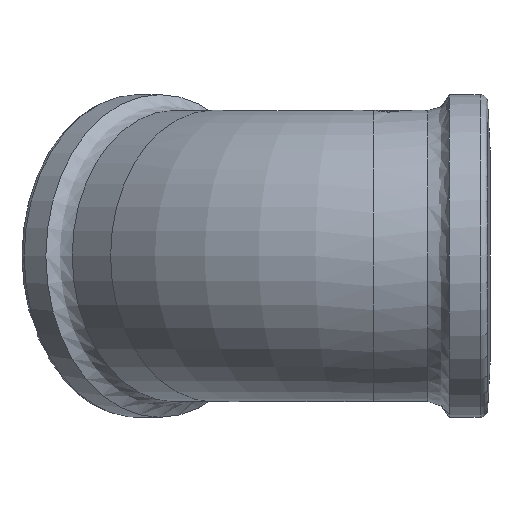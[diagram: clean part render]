
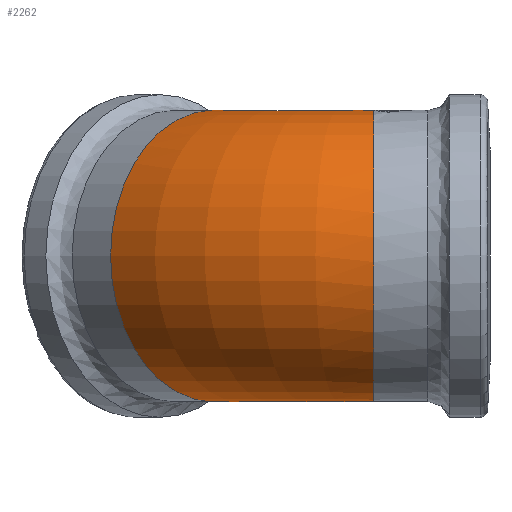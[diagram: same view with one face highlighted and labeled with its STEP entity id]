
A CAD part, left-side view. The second image highlights one B-rep face of the part: STEP entity #2262.
In plain terms, the highlighted toroidal (fillet/blend) face has major radius 30.15 mm and minor radius 19.4 mm.
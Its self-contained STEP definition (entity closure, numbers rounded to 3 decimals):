
#299=CARTESIAN_POINT('',(1.195,15.5,19.363));
#300=VERTEX_POINT('',#299);
#310=CARTESIAN_POINT('',(-0.176,17.023,19.399));
#311=VERTEX_POINT('',#310);
#312=CARTESIAN_POINT('',(-0.176,17.023,19.399));
#313=CARTESIAN_POINT('',(0.012,16.814,19.401));
#314=CARTESIAN_POINT('',(0.197,16.609,19.4));
#315=CARTESIAN_POINT('',(0.388,16.396,19.396));
#316=CARTESIAN_POINT('',(0.651,16.104,19.391));
#317=CARTESIAN_POINT('',(0.921,15.805,19.38));
#318=CARTESIAN_POINT('',(1.195,15.5,19.363));
#319=B_SPLINE_CURVE_WITH_KNOTS('',3,(#312,#313,#314,#315,#316,#317,#318),.UNSPECIFIED.,.F.,.U.,(4,3,4),(18.788,18.872,18.986),.UNSPECIFIED.);
#320=EDGE_CURVE('',#311,#300,#319,.T.);
#394=CARTESIAN_POINT('',(-1.547,15.5,19.338));
#395=VERTEX_POINT('',#394);
#396=CARTESIAN_POINT('',(-1.547,15.5,19.338));
#397=CARTESIAN_POINT('',(-1.08,16.019,19.376));
#398=CARTESIAN_POINT('',(-0.621,16.529,19.394));
#399=CARTESIAN_POINT('',(-0.176,17.023,19.399));
#400=B_SPLINE_CURVE_WITH_KNOTS('',3,(#396,#397,#398,#399),.UNSPECIFIED.,.F.,.U.,(4,4),(18.341,18.538),.UNSPECIFIED.);
#401=EDGE_CURVE('',#395,#311,#400,.T.);
#1011=CARTESIAN_POINT('',(18.983,15.5,-4.0));
#1012=VERTEX_POINT('',#1011);
#1013=CARTESIAN_POINT('',(0.0,15.5,0.0));
#1014=DIRECTION('',(0.0,-1.0,0.0));
#1015=DIRECTION('',(1.0,0.0,0.0));
#1016=AXIS2_PLACEMENT_3D('',#1013,#1014,#1015);
#1017=CIRCLE('',#1016,19.4);
#1018=EDGE_CURVE('',#395,#1012,#1017,.T.);
#1037=CARTESIAN_POINT('',(18.983,15.5,4.0));
#1038=VERTEX_POINT('',#1037);
#1045=CARTESIAN_POINT('',(0.0,15.5,0.0));
#1046=DIRECTION('',(0.0,-1.0,0.0));
#1047=DIRECTION('',(1.0,0.0,0.0));
#1048=AXIS2_PLACEMENT_3D('',#1045,#1046,#1047);
#1049=CIRCLE('',#1048,19.4);
#1050=EDGE_CURVE('',#1038,#300,#1049,.T.);
#1337=CARTESIAN_POINT('',(22.254,23.396,-4.0));
#1338=VERTEX_POINT('',#1337);
#1339=CARTESIAN_POINT('',(30.15,15.5,-4.0));
#1340=DIRECTION('',(0.0,0.0,1.0));
#1341=DIRECTION('',(-1.0,0.0,0.0));
#1342=AXIS2_PLACEMENT_3D('',#1339,#1340,#1341);
#1343=CIRCLE('',#1342,11.167);
#1344=EDGE_CURVE('',#1338,#1012,#1343,.T.);
#1418=CARTESIAN_POINT('',(22.254,23.396,4.0));
#1419=VERTEX_POINT('',#1418);
#1426=CARTESIAN_POINT('',(30.15,15.5,4.0));
#1427=DIRECTION('',(0.0,0.0,-1.0));
#1428=DIRECTION('',(-1.0,0.0,0.0));
#1429=AXIS2_PLACEMENT_3D('',#1426,#1427,#1428);
#1430=CIRCLE('',#1429,11.167);
#1431=EDGE_CURVE('',#1038,#1419,#1430,.T.);
#2235=CARTESIAN_POINT('',(8.831,36.819,0.0));
#2236=DIRECTION('',(-0.707,-0.707,0.0));
#2237=DIRECTION('',(0.707,-0.707,0.0));
#2238=AXIS2_PLACEMENT_3D('',#2235,#2236,#2237);
#2239=CIRCLE('',#2238,19.4);
#2240=EDGE_CURVE('',#1419,#1338,#2239,.T.);
#2248=CARTESIAN_POINT('',(30.15,15.5,0.0));
#2249=DIRECTION('',(0.0,0.0,-1.0));
#2250=DIRECTION('',(-1.0,0.0,0.0));
#2251=AXIS2_PLACEMENT_3D('',#2248,#2249,#2250);
#2252=TOROIDAL_SURFACE('',#2251,30.15,19.4);
#2253=ORIENTED_EDGE('',*,*,#320,.T.);
#2254=ORIENTED_EDGE('',*,*,#1050,.F.);
#2255=ORIENTED_EDGE('',*,*,#1431,.T.);
#2256=ORIENTED_EDGE('',*,*,#2240,.T.);
#2257=ORIENTED_EDGE('',*,*,#1344,.T.);
#2258=ORIENTED_EDGE('',*,*,#1018,.F.);
#2259=ORIENTED_EDGE('',*,*,#401,.T.);
#2260=EDGE_LOOP('',(#2253,#2254,#2255,#2256,#2257,#2258,#2259));
#2261=FACE_OUTER_BOUND('',#2260,.T.);
#2262=ADVANCED_FACE('',(#2261),#2252,.T.);
